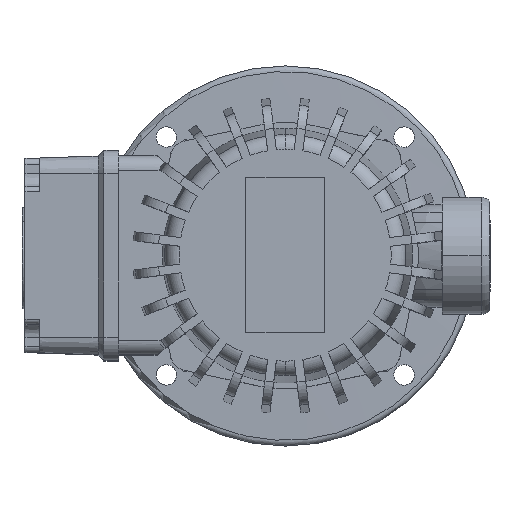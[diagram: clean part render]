
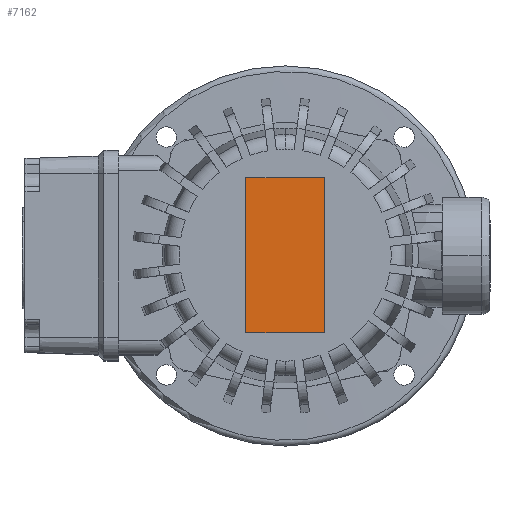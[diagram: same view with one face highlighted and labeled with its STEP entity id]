
A CAD part, top view. The second image highlights one B-rep face of the part: STEP entity #7162.
In plain terms, the highlighted planar face has unit normal (0, 0, 1).
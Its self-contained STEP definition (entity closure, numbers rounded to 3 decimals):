
#3202=VERTEX_POINT('',#9484);
#4442=EDGE_CURVE('',#6672,#4672,#10851,.T.);
#4672=VERTEX_POINT('',#11105);
#6144=EDGE_CURVE('',#4672,#6414,#12711,.T.);
#6414=VERTEX_POINT('',#13009);
#6562=EDGE_CURVE('',#3202,#6672,#13171,.T.);
#6672=VERTEX_POINT('',#13291);
#6924=EDGE_CURVE('',#6414,#3202,#13569,.T.);
#7162=ADVANCED_FACE('',(#13828),#13829,.T.);
#9484=CARTESIAN_POINT('',(-13.5,-26.5,103.0));
#10851=LINE('',#19117,#19118);
#11105=CARTESIAN_POINT('',(13.5,26.5,103.0));
#12711=LINE('',#22760,#22761);
#13009=CARTESIAN_POINT('',(13.5,-26.5,103.0));
#13171=LINE('',#23776,#23777);
#13291=CARTESIAN_POINT('',(-13.5,26.5,103.0));
#13569=LINE('',#24497,#24498);
#13828=FACE_OUTER_BOUND('',#24980,.T.);
#13829=PLANE('',#24981);
#19117=CARTESIAN_POINT('',(0.0,26.5,103.0));
#19118=VECTOR('',#31673,1.0);
#22760=CARTESIAN_POINT('',(13.5,0.0,103.0));
#22761=VECTOR('',#33741,1.0);
#23776=CARTESIAN_POINT('',(-13.5,0.0,103.0));
#23777=VECTOR('',#34259,1.0);
#24497=CARTESIAN_POINT('',(0.0,-26.5,103.0));
#24498=VECTOR('',#34742,1.0);
#24980=EDGE_LOOP('',(#35016,#35017,#35018,#35019));
#24981=AXIS2_PLACEMENT_3D('',#35020,#35021,#35022);
#31673=DIRECTION('',(1.0,0.0,0.0));
#33741=DIRECTION('',(0.0,-1.0,0.0));
#34259=DIRECTION('',(0.0,1.0,0.0));
#34742=DIRECTION('',(-1.0,0.0,0.0));
#35016=ORIENTED_EDGE('',*,*,#4442,.F.);
#35017=ORIENTED_EDGE('',*,*,#6562,.F.);
#35018=ORIENTED_EDGE('',*,*,#6924,.F.);
#35019=ORIENTED_EDGE('',*,*,#6144,.F.);
#35020=CARTESIAN_POINT('',(0.0,0.0,103.0));
#35021=DIRECTION('',(0.0,-0.0,1.0));
#35022=DIRECTION('',(0.0,1.0,0.0));
